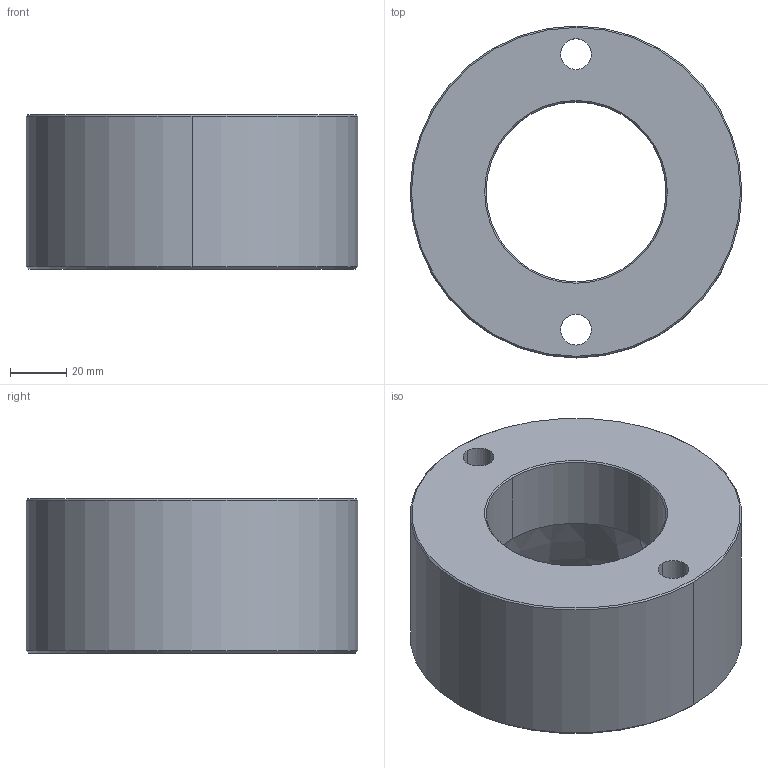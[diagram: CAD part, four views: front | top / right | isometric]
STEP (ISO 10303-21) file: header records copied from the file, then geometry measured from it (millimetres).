
FILE_DESCRIPTION((''),'2;1');
FILE_NAME('','2010-08-30T17:25:21+09:00',('misumi'),(''),'M/STEP i/f 1R2-14','CADmeister v5.1','');
FILE_SCHEMA(('AUTOMOTIVE_DESIGN'));
Length unit declared in the file: millimetre
Products named in the file (1): HKD50-55-R
Bounding box: 118 x 118 x 55 mm (x, y, z)
Volume: 386695.6 mm3; surface area: 49729.5 mm2
Topology: 1 solids, 1 shells, 24 faces, 54 edges, 34 vertices
Faces by surface type: cylinder 12, cone 8, plane 4
Entity records: 782 total; most frequent: DIRECTION 138, CARTESIAN_POINT 113, ORIENTED_EDGE 108, AXIS2_PLACEMENT_3D 59, EDGE_CURVE 54, VERTEX_POINT 34, CIRCLE 34, EDGE_LOOP 32
